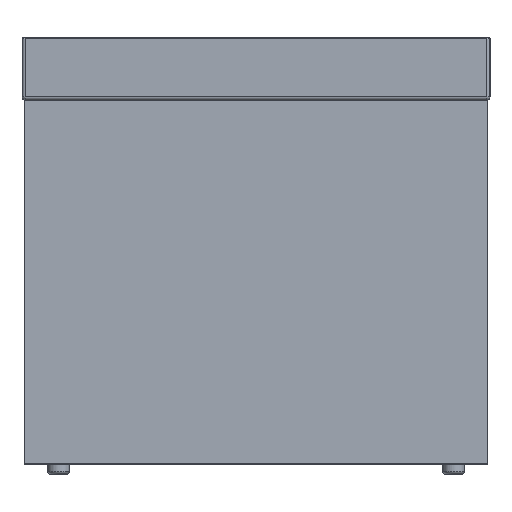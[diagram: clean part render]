
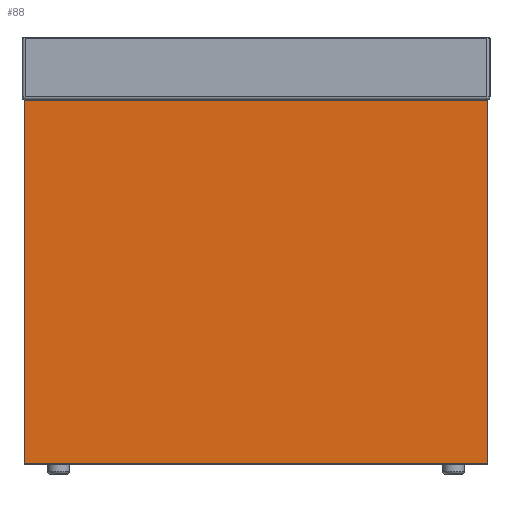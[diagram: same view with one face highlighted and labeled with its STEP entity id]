
A CAD part, left-side view. The second image highlights one B-rep face of the part: STEP entity #88.
In plain terms, the highlighted planar face has unit normal (-1, 0, 0).
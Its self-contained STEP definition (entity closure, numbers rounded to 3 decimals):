
#88=ADVANCED_FACE('',(#178),#1250,.T.);
#178=FACE_OUTER_BOUND('',#268,.T.);
#268=EDGE_LOOP('',(#442,#443,#444,#445));
#442=ORIENTED_EDGE('',*,*,#752,.F.);
#443=ORIENTED_EDGE('',*,*,#762,.T.);
#444=ORIENTED_EDGE('',*,*,#761,.T.);
#445=ORIENTED_EDGE('',*,*,#760,.F.);
#752=EDGE_CURVE('',#1115,#1114,#988,.T.);
#760=EDGE_CURVE('',#1114,#1122,#996,.T.);
#761=EDGE_CURVE('',#1123,#1122,#997,.T.);
#762=EDGE_CURVE('',#1115,#1123,#998,.T.);
#988=B_SPLINE_CURVE_WITH_KNOTS('',1,(#1888,#1889),.UNSPECIFIED.,.F.,.F.,
(2,2),(520.101,969.899),.UNSPECIFIED.);
#996=B_SPLINE_CURVE_WITH_KNOTS('',1,(#1904,#1905),.UNSPECIFIED.,.F.,.F.,
(2,2),(0.,349.9),.UNSPECIFIED.);
#997=B_SPLINE_CURVE_WITH_KNOTS('',1,(#1906,#1907),.UNSPECIFIED.,.F.,.F.,
(2,2),(0.1,445.9),.UNSPECIFIED.);
#998=B_SPLINE_CURVE_WITH_KNOTS('',1,(#1908,#1909),.UNSPECIFIED.,.F.,.F.,
(2,2),(0.,349.9),.UNSPECIFIED.);
#1114=VERTEX_POINT('',#1740);
#1115=VERTEX_POINT('',#1741);
#1122=VERTEX_POINT('',#1748);
#1123=VERTEX_POINT('',#1749);
#1250=PLANE('',#1324);
#1324=AXIS2_PLACEMENT_3D('',#1454,#1381,$);
#1381=DIRECTION('',(-1.,0.,0.));
#1454=CARTESIAN_POINT('',(-898.1,223.,10.));
#1740=CARTESIAN_POINT('',(-898.1,-222.9,360.));
#1741=CARTESIAN_POINT('',(-898.1,222.9,360.));
#1748=CARTESIAN_POINT('',(-898.1,-222.9,10.1));
#1749=CARTESIAN_POINT('',(-898.1,222.9,10.1));
#1888=CARTESIAN_POINT('',(-898.1,222.9,360.));
#1889=CARTESIAN_POINT('',(-898.1,-222.9,360.));
#1904=CARTESIAN_POINT('',(-898.1,-222.9,360.));
#1905=CARTESIAN_POINT('',(-898.1,-222.9,10.1));
#1906=CARTESIAN_POINT('',(-898.1,222.9,10.1));
#1907=CARTESIAN_POINT('',(-898.1,-222.9,10.1));
#1908=CARTESIAN_POINT('',(-898.1,222.9,360.));
#1909=CARTESIAN_POINT('',(-898.1,222.9,10.1));
